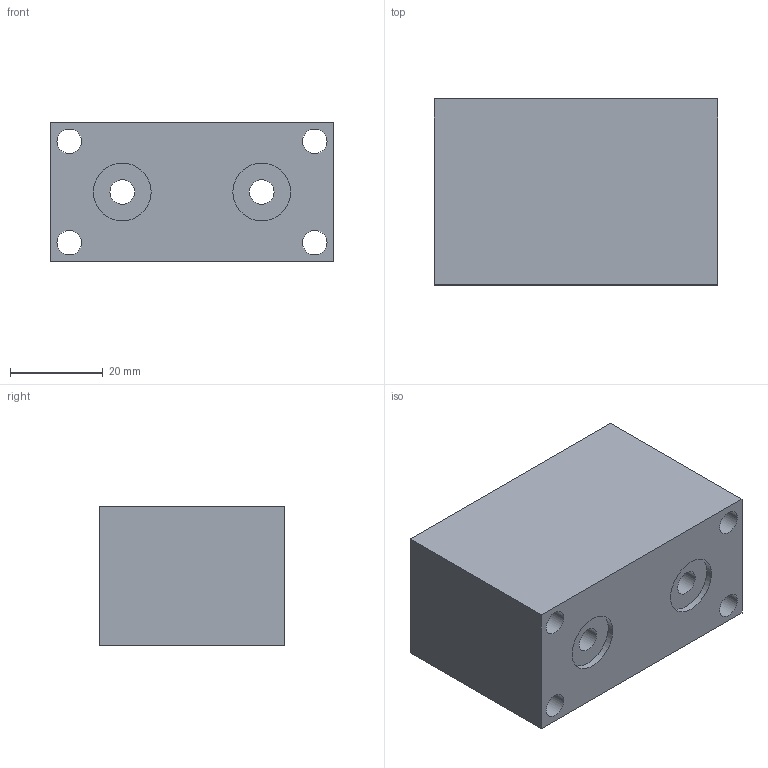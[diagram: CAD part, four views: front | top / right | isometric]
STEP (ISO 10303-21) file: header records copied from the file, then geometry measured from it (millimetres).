
FILE_DESCRIPTION((''),'2;1');
FILE_NAME('27303600','2020-09-09T',('l.soukupova'),(''),'PRO/ENGINEER BY PARAMETRIC TECHNOLOGY CORPORATION, 2015440','PRO/ENGINEER BY PARAMETRIC TECHNOLOGY CORPORATION, 2015440','');
FILE_SCHEMA(('AUTOMOTIVE_DESIGN { 1 0 10303 214 1 1 1 1 }'));
Length unit declared in the file: millimetre
Products named in the file (1): 27303600
Bounding box: 61 x 40 x 30 mm (x, y, z)
Volume: 67628.8 mm3; surface area: 14733.8 mm2
Topology: 1 solids, 1 shells, 24 faces, 83 edges, 74 vertices
Faces by surface type: cylinder 16, plane 8
Entity records: 1426 total; most frequent: DIRECTION 165, CARTESIAN_POINT 150, ORIENTED_EDGE 120, PRESENTATION_STYLE_ASSIGNMENT 103, STYLED_ITEM 87, CURVE_STYLE 86, EDGE_CURVE 60, AXIS2_PLACEMENT_3D 57
